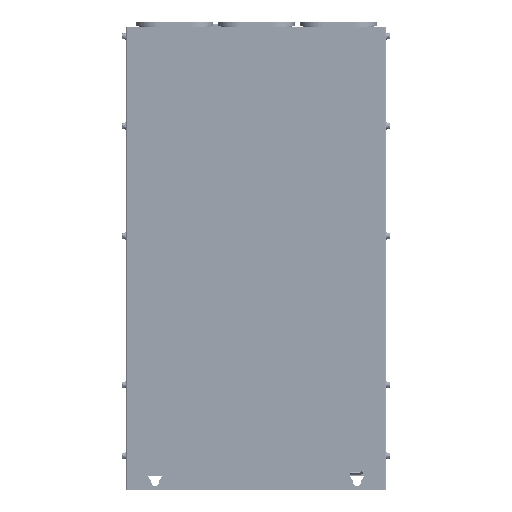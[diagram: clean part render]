
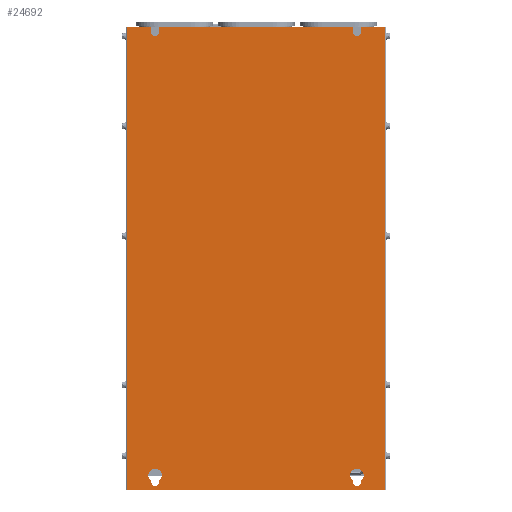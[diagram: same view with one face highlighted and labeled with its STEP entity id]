
A CAD part, front view. The second image highlights one B-rep face of the part: STEP entity #24692.
In plain terms, the highlighted planar face has unit normal (0, -1, 0).
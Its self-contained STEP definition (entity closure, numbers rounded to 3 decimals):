
#17617=CARTESIAN_POINT('',(143.005,0.,302.));
#17618=DIRECTION('',(0.,1.,0.));
#17619=DIRECTION('',(-1.,0.,0.));
#17620=AXIS2_PLACEMENT_3D('',#17617,#17618,#17619);
#17622=DIRECTION('',(1.,0.,0.));
#17623=VECTOR('',#17622,29.295);
#17624=CARTESIAN_POINT('',(143.005,0.,305.));
#17625=LINE('',#17624,#17623);
#17626=DIRECTION('',(-1.,0.,0.));
#17627=VECTOR('',#17626,344.6);
#17628=CARTESIAN_POINT('',(172.3,0.,-315.));
#17629=LINE('',#17628,#17627);
#17630=DIRECTION('',(1.,0.,0.));
#17631=VECTOR('',#17630,29.3);
#17632=CARTESIAN_POINT('',(-172.3,0.,305.));
#17633=LINE('',#17632,#17631);
#17634=CARTESIAN_POINT('',(-143.,0.,302.));
#17635=DIRECTION('',(0.,1.,0.));
#17636=DIRECTION('',(0.,0.,1.));
#17637=AXIS2_PLACEMENT_3D('',#17634,#17635,#17636);
#17639=DIRECTION('',(0.,0.,-1.));
#17640=VECTOR('',#17639,5.);
#17641=CARTESIAN_POINT('',(-140.,0.,302.));
#17642=LINE('',#17641,#17640);
#17643=CARTESIAN_POINT('',(-135.,0.,297.));
#17644=DIRECTION('',(0.,-1.,0.));
#17645=DIRECTION('',(-1.,0.,0.));
#17646=AXIS2_PLACEMENT_3D('',#17643,#17644,#17645);
#17648=CARTESIAN_POINT('',(-127.,0.,302.));
#17649=DIRECTION('',(0.,1.,0.));
#17650=DIRECTION('',(-1.,0.,0.));
#17651=AXIS2_PLACEMENT_3D('',#17648,#17649,#17650);
#17653=DIRECTION('',(1.,0.,0.));
#17654=VECTOR('',#17653,254.005);
#17655=CARTESIAN_POINT('',(-127.,0.,305.));
#17656=LINE('',#17655,#17654);
#17657=CARTESIAN_POINT('',(127.005,0.,302.));
#17658=DIRECTION('',(0.,1.,0.));
#17659=DIRECTION('',(0.,0.,1.));
#17660=AXIS2_PLACEMENT_3D('',#17657,#17658,#17659);
#17662=DIRECTION('',(0.,0.,-1.));
#17663=VECTOR('',#17662,4.792);
#17664=CARTESIAN_POINT('',(130.005,0.,302.));
#17665=LINE('',#17664,#17663);
#17666=CARTESIAN_POINT('',(135.005,0.,297.));
#17667=DIRECTION('',(0.,-1.,0.));
#17668=DIRECTION('',(-0.999,0.,0.042));
#17669=AXIS2_PLACEMENT_3D('',#17666,#17667,#17668);
#17671=DIRECTION('',(0.,0.,1.));
#17672=VECTOR('',#17671,2.007);
#17673=CARTESIAN_POINT('',(-130.,0.,-304.996));
#17674=LINE('',#17673,#17672);
#17675=CARTESIAN_POINT('',(-135.,0.,-295.505));
#17676=DIRECTION('',(0.,-1.,0.));
#17677=DIRECTION('',(0.556,0.,-0.831));
#17678=AXIS2_PLACEMENT_3D('',#17675,#17676,#17677);
#17680=CARTESIAN_POINT('',(-135.,0.,-295.505));
#17681=DIRECTION('',(0.,-1.,0.));
#17682=DIRECTION('',(0.556,0.,0.831));
#17683=AXIS2_PLACEMENT_3D('',#17680,#17681,#17682);
#17685=DIRECTION('',(0.,0.,-1.));
#17686=VECTOR('',#17685,2.007);
#17687=CARTESIAN_POINT('',(-140.,0.,-302.989));
#17688=LINE('',#17687,#17686);
#17689=CARTESIAN_POINT('',(-135.,0.,-304.996));
#17690=DIRECTION('',(0.,-1.,0.));
#17691=DIRECTION('',(-1.,0.,0.));
#17692=AXIS2_PLACEMENT_3D('',#17689,#17690,#17691);
#17694=CARTESIAN_POINT('',(135.005,0.,-304.996));
#17695=DIRECTION('',(0.,-1.,0.));
#17696=DIRECTION('',(-1.,0.,0.));
#17697=AXIS2_PLACEMENT_3D('',#17694,#17695,#17696);
#17699=DIRECTION('',(0.,0.,1.));
#17700=VECTOR('',#17699,2.01);
#17701=CARTESIAN_POINT('',(140.009,0.,-304.996));
#17702=LINE('',#17701,#17700);
#17703=CARTESIAN_POINT('',(135.005,0.,-295.505));
#17704=DIRECTION('',(0.,-1.,0.));
#17705=DIRECTION('',(0.556,0.,-0.831));
#17706=AXIS2_PLACEMENT_3D('',#17703,#17704,#17705);
#17708=CARTESIAN_POINT('',(135.005,0.,-295.505));
#17709=DIRECTION('',(0.,-1.,0.));
#17710=DIRECTION('',(0.556,0.,0.831));
#17711=AXIS2_PLACEMENT_3D('',#17708,#17709,#17710);
#17713=DIRECTION('',(0.,0.,-1.));
#17714=VECTOR('',#17713,2.01);
#17715=CARTESIAN_POINT('',(130.,0.,-302.986));
#17716=LINE('',#17715,#17714);
#17725=DIRECTION('',(0.,0.,-1.));
#17726=VECTOR('',#17725,5.208);
#17727=CARTESIAN_POINT('',(140.005,0.,302.));
#17728=LINE('',#17727,#17726);
#17757=DIRECTION('',(0.,0.,-1.));
#17758=VECTOR('',#17757,5.);
#17759=CARTESIAN_POINT('',(-130.,0.,302.));
#17760=LINE('',#17759,#17758);
#17799=DIRECTION('',(0.,0.,-1.));
#17800=VECTOR('',#17799,620.);
#17801=CARTESIAN_POINT('',(-172.3,0.,305.));
#17802=LINE('',#17801,#17800);
#17847=DIRECTION('',(0.,0.,1.));
#17848=VECTOR('',#17847,620.);
#17849=CARTESIAN_POINT('',(172.3,0.,-315.));
#17850=LINE('',#17849,#17848);
#22949=CARTESIAN_POINT('',(140.005,0.,302.));
#22950=CARTESIAN_POINT('',(143.005,0.,305.));
#22951=VERTEX_POINT('',#22949);
#22952=VERTEX_POINT('',#22950);
#22953=CARTESIAN_POINT('',(172.3,0.,305.));
#22954=VERTEX_POINT('',#22953);
#22955=CARTESIAN_POINT('',(172.3,0.,-315.));
#22956=VERTEX_POINT('',#22955);
#22957=CARTESIAN_POINT('',(-172.3,0.,-315.));
#22958=VERTEX_POINT('',#22957);
#22959=CARTESIAN_POINT('',(-172.3,0.,305.));
#22960=VERTEX_POINT('',#22959);
#22961=CARTESIAN_POINT('',(-143.,0.,305.));
#22962=VERTEX_POINT('',#22961);
#22963=CARTESIAN_POINT('',(-140.,0.,302.));
#22964=VERTEX_POINT('',#22963);
#22965=CARTESIAN_POINT('',(-140.,0.,297.));
#22966=VERTEX_POINT('',#22965);
#22967=CARTESIAN_POINT('',(-130.,0.,297.));
#22968=VERTEX_POINT('',#22967);
#22969=CARTESIAN_POINT('',(-130.,0.,302.));
#22970=VERTEX_POINT('',#22969);
#22971=CARTESIAN_POINT('',(-127.,0.,305.));
#22972=VERTEX_POINT('',#22971);
#22973=CARTESIAN_POINT('',(127.005,0.,305.));
#22974=VERTEX_POINT('',#22973);
#22975=CARTESIAN_POINT('',(130.005,0.,302.));
#22976=VERTEX_POINT('',#22975);
#22977=CARTESIAN_POINT('',(130.005,0.,297.208));
#22978=VERTEX_POINT('',#22977);
#22979=CARTESIAN_POINT('',(140.005,0.,296.792));
#22980=VERTEX_POINT('',#22979);
#22981=CARTESIAN_POINT('',(-130.,0.,-304.996));
#22982=CARTESIAN_POINT('',(-130.,0.,-302.989));
#22983=VERTEX_POINT('',#22981);
#22984=VERTEX_POINT('',#22982);
#22985=CARTESIAN_POINT('',(-130.,0.,-288.022));
#22986=VERTEX_POINT('',#22985);
#22987=CARTESIAN_POINT('',(-140.,0.,-302.989));
#22988=VERTEX_POINT('',#22987);
#22989=CARTESIAN_POINT('',(-140.,0.,-304.996));
#22990=VERTEX_POINT('',#22989);
#22991=CARTESIAN_POINT('',(130.,0.,-304.996));
#22992=CARTESIAN_POINT('',(140.009,0.,-304.996));
#22993=VERTEX_POINT('',#22991);
#22994=VERTEX_POINT('',#22992);
#22995=CARTESIAN_POINT('',(140.009,0.,-302.986));
#22996=VERTEX_POINT('',#22995);
#22997=CARTESIAN_POINT('',(140.009,0.,-288.025));
#22998=VERTEX_POINT('',#22997);
#22999=CARTESIAN_POINT('',(130.,0.,-302.986));
#23000=VERTEX_POINT('',#22999);
#24629=CARTESIAN_POINT('',(0.,0.,0.));
#24630=DIRECTION('',(0.,1.,0.));
#24631=DIRECTION('',(-1.,0.,0.));
#24632=AXIS2_PLACEMENT_3D('',#24629,#24630,#24631);
#24633=PLANE('',#24632);
#24635=ORIENTED_EDGE('',*,*,#24634,.T.);
#24637=ORIENTED_EDGE('',*,*,#24636,.T.);
#24639=ORIENTED_EDGE('',*,*,#24638,.F.);
#24641=ORIENTED_EDGE('',*,*,#24640,.T.);
#24643=ORIENTED_EDGE('',*,*,#24642,.F.);
#24645=ORIENTED_EDGE('',*,*,#24644,.T.);
#24647=ORIENTED_EDGE('',*,*,#24646,.T.);
#24649=ORIENTED_EDGE('',*,*,#24648,.T.);
#24651=ORIENTED_EDGE('',*,*,#24650,.T.);
#24653=ORIENTED_EDGE('',*,*,#24652,.F.);
#24655=ORIENTED_EDGE('',*,*,#24654,.T.);
#24657=ORIENTED_EDGE('',*,*,#24656,.T.);
#24659=ORIENTED_EDGE('',*,*,#24658,.T.);
#24661=ORIENTED_EDGE('',*,*,#24660,.T.);
#24663=ORIENTED_EDGE('',*,*,#24662,.T.);
#24665=ORIENTED_EDGE('',*,*,#24664,.F.);
#24666=EDGE_LOOP('',(#24635,#24637,#24639,#24641,#24643,#24645,#24647,#24649,
#24651,#24653,#24655,#24657,#24659,#24661,#24663,#24665));
#24667=FACE_OUTER_BOUND('',#24666,.F.);
#24669=ORIENTED_EDGE('',*,*,#24668,.T.);
#24671=ORIENTED_EDGE('',*,*,#24670,.T.);
#24673=ORIENTED_EDGE('',*,*,#24672,.T.);
#24675=ORIENTED_EDGE('',*,*,#24674,.T.);
#24677=ORIENTED_EDGE('',*,*,#24676,.T.);
#24678=EDGE_LOOP('',(#24669,#24671,#24673,#24675,#24677));
#24679=FACE_BOUND('',#24678,.F.);
#24681=ORIENTED_EDGE('',*,*,#24680,.T.);
#24683=ORIENTED_EDGE('',*,*,#24682,.T.);
#24685=ORIENTED_EDGE('',*,*,#24684,.T.);
#24687=ORIENTED_EDGE('',*,*,#24686,.T.);
#24689=ORIENTED_EDGE('',*,*,#24688,.T.);
#24690=EDGE_LOOP('',(#24681,#24683,#24685,#24687,#24689));
#24691=FACE_BOUND('',#24690,.F.);
#24692=ADVANCED_FACE('',(#24667,#24679,#24691),#24633,.F.);
#17621=CIRCLE('',#17620,3.);
#17638=CIRCLE('',#17637,3.);
#17647=CIRCLE('',#17646,5.);
#17652=CIRCLE('',#17651,3.);
#17661=CIRCLE('',#17660,3.);
#17670=CIRCLE('',#17669,5.004);
#17679=CIRCLE('',#17678,9.);
#17684=CIRCLE('',#17683,9.);
#17693=CIRCLE('',#17692,5.);
#17698=CIRCLE('',#17697,5.004);
#17707=CIRCLE('',#17706,9.);
#17712=CIRCLE('',#17711,9.);
#24634=EDGE_CURVE('',#22951,#22952,#17621,.T.);
#24636=EDGE_CURVE('',#22952,#22954,#17625,.T.);
#24638=EDGE_CURVE('',#22956,#22954,#17850,.T.);
#24640=EDGE_CURVE('',#22956,#22958,#17629,.T.);
#24642=EDGE_CURVE('',#22960,#22958,#17802,.T.);
#24644=EDGE_CURVE('',#22960,#22962,#17633,.T.);
#24646=EDGE_CURVE('',#22962,#22964,#17638,.T.);
#24648=EDGE_CURVE('',#22964,#22966,#17642,.T.);
#24650=EDGE_CURVE('',#22966,#22968,#17647,.T.);
#24652=EDGE_CURVE('',#22970,#22968,#17760,.T.);
#24654=EDGE_CURVE('',#22970,#22972,#17652,.T.);
#24656=EDGE_CURVE('',#22972,#22974,#17656,.T.);
#24658=EDGE_CURVE('',#22974,#22976,#17661,.T.);
#24660=EDGE_CURVE('',#22976,#22978,#17665,.T.);
#24662=EDGE_CURVE('',#22978,#22980,#17670,.T.);
#24664=EDGE_CURVE('',#22951,#22980,#17728,.T.);
#24668=EDGE_CURVE('',#22983,#22984,#17674,.T.);
#24670=EDGE_CURVE('',#22984,#22986,#17679,.T.);
#24672=EDGE_CURVE('',#22986,#22988,#17684,.T.);
#24674=EDGE_CURVE('',#22988,#22990,#17688,.T.);
#24676=EDGE_CURVE('',#22990,#22983,#17693,.T.);
#24680=EDGE_CURVE('',#22993,#22994,#17698,.T.);
#24682=EDGE_CURVE('',#22994,#22996,#17702,.T.);
#24684=EDGE_CURVE('',#22996,#22998,#17707,.T.);
#24686=EDGE_CURVE('',#22998,#23000,#17712,.T.);
#24688=EDGE_CURVE('',#23000,#22993,#17716,.T.);
